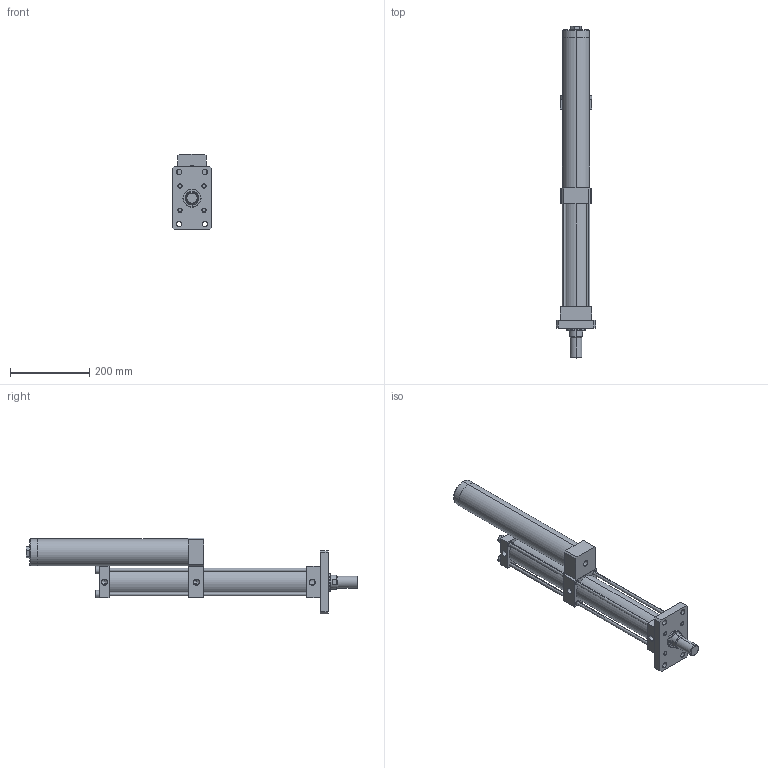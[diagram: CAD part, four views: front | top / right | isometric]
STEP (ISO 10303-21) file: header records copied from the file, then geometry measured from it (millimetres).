
FILE_DESCRIPTION (( 'STEP AP203' ), '1' );
FILE_NAME ('MPT-63-200-15-1T.STEP', '2016-03-17T09:41:55', ( 'WIN' ), ( '' ), 'SwSTEP 2.0', 'SolidWorks 2014', '' );
FILE_SCHEMA (( 'CONFIG_CONTROL_DESIGN' ));
Length unit declared in the file: millimetre
Products named in the file (1): MPT-63-200-15-1T
Bounding box: 100 x 840 x 191 mm (x, y, z)
Volume: 2843832.8 mm3; surface area: 532278.6 mm2
Topology: 15 solids, 15 shells, 270 faces, 609 edges, 378 vertices
Faces by surface type: plane 150, cylinder 84, cone 24, torus 12
Entity records: 7693 total; most frequent: DIRECTION 1396, CARTESIAN_POINT 1351, ORIENTED_EDGE 1206, EDGE_CURVE 603, AXIS2_PLACEMENT_3D 533, VERTEX_POINT 378, LINE 330, VECTOR 330
